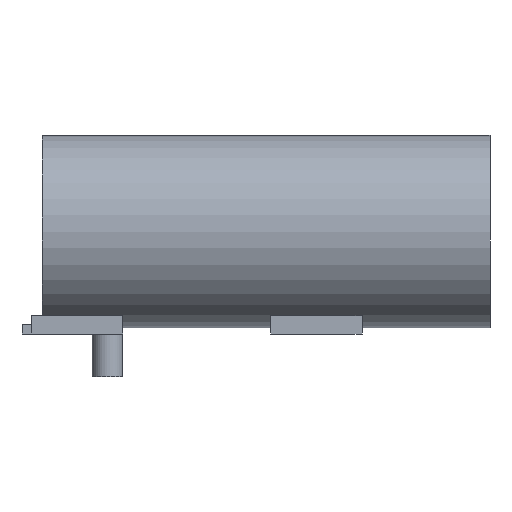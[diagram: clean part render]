
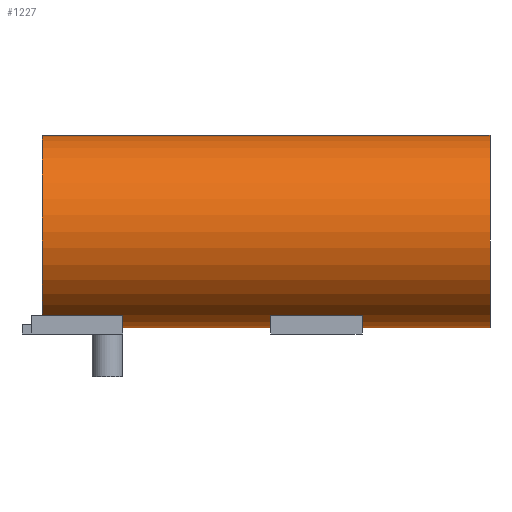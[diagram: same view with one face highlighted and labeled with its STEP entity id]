
A CAD part, left-side view. The second image highlights one B-rep face of the part: STEP entity #1227.
In plain terms, the highlighted cylindrical face has radius 1.58 mm (diameter 3.16 mm), a partial arc.
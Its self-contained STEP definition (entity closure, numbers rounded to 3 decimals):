
#380 = VERTEX_POINT('',#381);
#381 = CARTESIAN_POINT('',(-2.89,-3.675,0.1));
#395 = PLANE('',#396);
#396 = AXIS2_PLACEMENT_3D('',#397,#398,#399);
#397 = CARTESIAN_POINT('',(-2.89,-3.675,0.1));
#398 = DIRECTION('',(0.,0.,1.));
#399 = DIRECTION('',(1.,0.,-0.));
#477 = PLANE('',#478);
#478 = AXIS2_PLACEMENT_3D('',#479,#480,#481);
#479 = CARTESIAN_POINT('',(-2.89,-3.675,3.26));
#480 = DIRECTION('',(0.,0.,1.));
#481 = DIRECTION('',(1.,0.,-0.));
#637 = PLANE('',#638);
#638 = AXIS2_PLACEMENT_3D('',#639,#640,#641);
#639 = CARTESIAN_POINT('',(-2.89,-3.675,1.68));
#640 = DIRECTION('',(0.,1.,0.));
#641 = DIRECTION('',(0.,-0.,1.));
#686 = PLANE('',#687);
#687 = AXIS2_PLACEMENT_3D('',#688,#689,#690);
#688 = CARTESIAN_POINT('',(-2.89,3.675,1.68));
#689 = DIRECTION('',(0.,1.,0.));
#690 = DIRECTION('',(0.,-0.,1.));
#704 = VERTEX_POINT('',#705);
#705 = CARTESIAN_POINT('',(-2.89,3.675,0.1));
#851 = EDGE_CURVE('',#380,#704,#852,.T.);
#852 = SURFACE_CURVE('',#853,(#857,#864),.PCURVE_S1.);
#853 = LINE('',#854,#855);
#854 = CARTESIAN_POINT('',(-2.89,-3.675,0.1));
#855 = VECTOR('',#856,1.);
#856 = DIRECTION('',(-0.,1.,0.));
#857 = PCURVE('',#395,#858);
#858 = DEFINITIONAL_REPRESENTATION('',(#859),#863);
#859 = LINE('',#860,#861);
#860 = CARTESIAN_POINT('',(0.,0.));
#861 = VECTOR('',#862,1.);
#862 = DIRECTION('',(0.,1.));
#863 = ( GEOMETRIC_REPRESENTATION_CONTEXT(2) 
PARAMETRIC_REPRESENTATION_CONTEXT() REPRESENTATION_CONTEXT('2D SPACE',''
  ) );
#864 = PCURVE('',#865,#870);
#865 = CYLINDRICAL_SURFACE('',#866,1.58);
#866 = AXIS2_PLACEMENT_3D('',#867,#868,#869);
#867 = CARTESIAN_POINT('',(-2.89,-3.675,1.68));
#868 = DIRECTION('',(0.,1.,0.));
#869 = DIRECTION('',(0.,-0.,1.));
#870 = DEFINITIONAL_REPRESENTATION('',(#871),#875);
#871 = LINE('',#872,#873);
#872 = CARTESIAN_POINT('',(3.142,0.));
#873 = VECTOR('',#874,1.);
#874 = DIRECTION('',(0.,1.));
#875 = ( GEOMETRIC_REPRESENTATION_CONTEXT(2) 
PARAMETRIC_REPRESENTATION_CONTEXT() REPRESENTATION_CONTEXT('2D SPACE',''
  ) );
#915 = EDGE_CURVE('',#916,#918,#920,.T.);
#916 = VERTEX_POINT('',#917);
#917 = CARTESIAN_POINT('',(-2.89,-3.675,3.26));
#918 = VERTEX_POINT('',#919);
#919 = CARTESIAN_POINT('',(-2.89,3.675,3.26));
#920 = SURFACE_CURVE('',#921,(#925,#932),.PCURVE_S1.);
#921 = LINE('',#922,#923);
#922 = CARTESIAN_POINT('',(-2.89,-3.675,3.26));
#923 = VECTOR('',#924,1.);
#924 = DIRECTION('',(-0.,1.,0.));
#925 = PCURVE('',#477,#926);
#926 = DEFINITIONAL_REPRESENTATION('',(#927),#931);
#927 = LINE('',#928,#929);
#928 = CARTESIAN_POINT('',(0.,0.));
#929 = VECTOR('',#930,1.);
#930 = DIRECTION('',(0.,1.));
#931 = ( GEOMETRIC_REPRESENTATION_CONTEXT(2) 
PARAMETRIC_REPRESENTATION_CONTEXT() REPRESENTATION_CONTEXT('2D SPACE',''
  ) );
#932 = PCURVE('',#865,#933);
#933 = DEFINITIONAL_REPRESENTATION('',(#934),#937);
#934 = B_SPLINE_CURVE_WITH_KNOTS('',1,(#935,#936),.UNSPECIFIED.,.F.,.F.,
  (2,2),(0.,7.35),.PIECEWISE_BEZIER_KNOTS.);
#935 = CARTESIAN_POINT('',(6.283,0.));
#936 = CARTESIAN_POINT('',(6.283,7.35));
#937 = ( GEOMETRIC_REPRESENTATION_CONTEXT(2) 
PARAMETRIC_REPRESENTATION_CONTEXT() REPRESENTATION_CONTEXT('2D SPACE',''
  ) );
#1136 = EDGE_CURVE('',#380,#916,#1137,.T.);
#1137 = SURFACE_CURVE('',#1138,(#1143,#1150),.PCURVE_S1.);
#1138 = CIRCLE('',#1139,1.58);
#1139 = AXIS2_PLACEMENT_3D('',#1140,#1141,#1142);
#1140 = CARTESIAN_POINT('',(-2.89,-3.675,1.68));
#1141 = DIRECTION('',(0.,1.,0.));
#1142 = DIRECTION('',(0.,-0.,1.));
#1143 = PCURVE('',#637,#1144);
#1144 = DEFINITIONAL_REPRESENTATION('',(#1145),#1149);
#1145 = CIRCLE('',#1146,1.58);
#1146 = AXIS2_PLACEMENT_2D('',#1147,#1148);
#1147 = CARTESIAN_POINT('',(0.,0.));
#1148 = DIRECTION('',(1.,0.));
#1149 = ( GEOMETRIC_REPRESENTATION_CONTEXT(2) 
PARAMETRIC_REPRESENTATION_CONTEXT() REPRESENTATION_CONTEXT('2D SPACE',''
  ) );
#1150 = PCURVE('',#865,#1151);
#1151 = DEFINITIONAL_REPRESENTATION('',(#1152),#1156);
#1152 = LINE('',#1153,#1154);
#1153 = CARTESIAN_POINT('',(0.,0.));
#1154 = VECTOR('',#1155,1.);
#1155 = DIRECTION('',(1.,0.));
#1156 = ( GEOMETRIC_REPRESENTATION_CONTEXT(2) 
PARAMETRIC_REPRESENTATION_CONTEXT() REPRESENTATION_CONTEXT('2D SPACE',''
  ) );
#1184 = EDGE_CURVE('',#704,#918,#1185,.T.);
#1185 = SURFACE_CURVE('',#1186,(#1191,#1198),.PCURVE_S1.);
#1186 = CIRCLE('',#1187,1.58);
#1187 = AXIS2_PLACEMENT_3D('',#1188,#1189,#1190);
#1188 = CARTESIAN_POINT('',(-2.89,3.675,1.68));
#1189 = DIRECTION('',(0.,1.,0.));
#1190 = DIRECTION('',(0.,-0.,1.));
#1191 = PCURVE('',#686,#1192);
#1192 = DEFINITIONAL_REPRESENTATION('',(#1193),#1197);
#1193 = CIRCLE('',#1194,1.58);
#1194 = AXIS2_PLACEMENT_2D('',#1195,#1196);
#1195 = CARTESIAN_POINT('',(0.,0.));
#1196 = DIRECTION('',(1.,0.));
#1197 = ( GEOMETRIC_REPRESENTATION_CONTEXT(2) 
PARAMETRIC_REPRESENTATION_CONTEXT() REPRESENTATION_CONTEXT('2D SPACE',''
  ) );
#1198 = PCURVE('',#865,#1199);
#1199 = DEFINITIONAL_REPRESENTATION('',(#1200),#1204);
#1200 = LINE('',#1201,#1202);
#1201 = CARTESIAN_POINT('',(0.,7.35));
#1202 = VECTOR('',#1203,1.);
#1203 = DIRECTION('',(1.,0.));
#1204 = ( GEOMETRIC_REPRESENTATION_CONTEXT(2) 
PARAMETRIC_REPRESENTATION_CONTEXT() REPRESENTATION_CONTEXT('2D SPACE',''
  ) );
#1227 = ADVANCED_FACE('',(#1228),#865,.T.);
#1228 = FACE_BOUND('',#1229,.T.);
#1229 = EDGE_LOOP('',(#1230,#1231,#1232,#1233));
#1230 = ORIENTED_EDGE('',*,*,#915,.T.);
#1231 = ORIENTED_EDGE('',*,*,#1184,.F.);
#1232 = ORIENTED_EDGE('',*,*,#851,.F.);
#1233 = ORIENTED_EDGE('',*,*,#1136,.T.);
